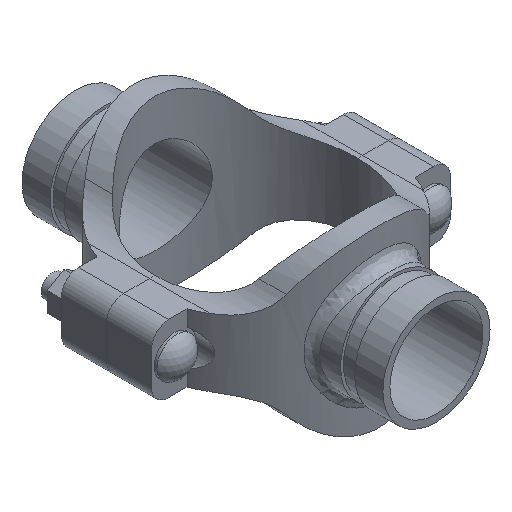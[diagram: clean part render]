
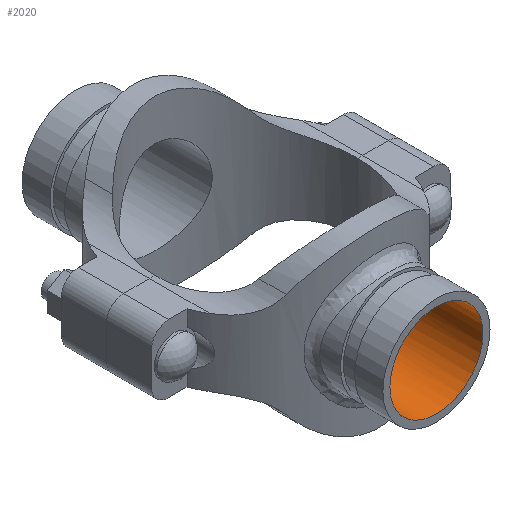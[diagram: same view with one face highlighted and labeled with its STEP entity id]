
A CAD part, isometric view. The second image highlights one B-rep face of the part: STEP entity #2020.
In plain terms, the highlighted cylindrical face has radius 26.194 mm (diameter 52.387 mm), a full revolution.
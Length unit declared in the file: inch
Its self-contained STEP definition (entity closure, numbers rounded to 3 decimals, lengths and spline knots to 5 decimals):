
#52=B_SPLINE_CURVE_WITH_KNOTS('',3,(#4116,#4117,#4118,#4119,#4120,#4121,
#4122,#4123,#4124,#4125,#4126,#4127,#4128,#4129,#4130,#4131,#4132,#4133,
#4134,#4135,#4136,#4137,#4138,#4139,#4140,#4141,#4142,#4143,#4144,#4145,
#4146,#4147,#4148,#4149,#4150,#4151,#4152,#4153,#4154,#4155,#4156,#4157,
#4158,#4159,#4160,#4161,#4162,#4163,#4164,#4165,#4166,#4167,#4168,#4169,
#4170,#4171,#4172,#4173,#4174,#4175,#4176,#4177,#4178,#4179,#4180,#4181),
 .UNSPECIFIED.,.T.,.F.,(4,2,2,2,2,2,2,2,2,2,2,2,2,2,2,2,2,2,2,2,2,2,2,2,
2,2,2,2,2,2,2,2,4),(0.,0.50208,1.00416,1.50624,
2.00833,2.50948,3.01064,3.5118,4.01295,
4.51411,5.01527,5.51643,6.01758,6.51967,
7.02175,7.52383,8.02591,8.52799,9.03007,
9.53215,10.03423,10.53539,11.03655,11.53771,
12.03886,12.54002,13.04118,13.54234,14.04349,
14.54557,15.04766,15.54974,16.05182),
 .UNSPECIFIED.);
#99=CYLINDRICAL_SURFACE('',#2261,1.03125);
#218=FACE_OUTER_BOUND('',#342,.T.);
#342=EDGE_LOOP('',(#1624,#1625,#1626,#1627));
#494=LINE('',#4115,#644);
#644=VECTOR('',#2736,1.03125);
#748=CIRCLE('',#2262,1.03125);
#917=VERTEX_POINT('',#4112);
#918=VERTEX_POINT('',#4114);
#1168=EDGE_CURVE('',#917,#917,#748,.T.);
#1169=EDGE_CURVE('',#917,#918,#494,.T.);
#1170=EDGE_CURVE('',#918,#918,#52,.T.);
#1624=ORIENTED_EDGE('',*,*,#1168,.F.);
#1625=ORIENTED_EDGE('',*,*,#1169,.T.);
#1626=ORIENTED_EDGE('',*,*,#1170,.F.);
#1627=ORIENTED_EDGE('',*,*,#1169,.F.);
#2020=ADVANCED_FACE('',(#218),#99,.F.);
#2261=AXIS2_PLACEMENT_3D('',#4111,#2732,#2733);
#2262=AXIS2_PLACEMENT_3D('',#4113,#2734,#2735);
#2732=DIRECTION('center_axis',(0.,-1.,0.));
#2733=DIRECTION('ref_axis',(-1.,0.,0.));
#2734=DIRECTION('center_axis',(0.,-1.,0.));
#2735=DIRECTION('ref_axis',(-1.,0.,0.));
#2736=DIRECTION('',(0.,-1.,0.));
#4111=CARTESIAN_POINT('Origin',(0.,4.,0.));
#4112=CARTESIAN_POINT('',(1.03125,4.,0.));
#4113=CARTESIAN_POINT('Origin',(0.,4.,0.));
#4114=CARTESIAN_POINT('',(1.03125,1.99976,0.));
#4115=CARTESIAN_POINT('',(1.03125,4.,0.));
#4116=CARTESIAN_POINT('Ctrl Pts',(1.03125,1.99976,0.));
#4117=CARTESIAN_POINT('Ctrl Pts',(1.03125,1.99976,-0.06589));
#4118=CARTESIAN_POINT('Ctrl Pts',(1.02483,2.00311,-0.13364));
#4119=CARTESIAN_POINT('Ctrl Pts',(0.99824,2.01649,-0.26771));
#4120=CARTESIAN_POINT('Ctrl Pts',(0.97807,2.02651,-0.33403));
#4121=CARTESIAN_POINT('Ctrl Pts',(0.92518,2.05119,-0.46069));
#4122=CARTESIAN_POINT('Ctrl Pts',(0.89242,2.06585,-0.52115));
#4123=CARTESIAN_POINT('Ctrl Pts',(0.81708,2.09679,-0.63277));
#4124=CARTESIAN_POINT('Ctrl Pts',(0.77449,2.11305,-0.68392));
#4125=CARTESIAN_POINT('Ctrl Pts',(0.68401,2.14404,-0.7744));
#4126=CARTESIAN_POINT('Ctrl Pts',(0.63289,2.15993,-0.81698));
#4127=CARTESIAN_POINT('Ctrl Pts',(0.52126,2.18955,-0.89236));
#4128=CARTESIAN_POINT('Ctrl Pts',(0.46073,2.20326,-0.92516));
#4129=CARTESIAN_POINT('Ctrl Pts',(0.33395,2.22601,-0.9781));
#4130=CARTESIAN_POINT('Ctrl Pts',(0.26757,2.23505,-0.99828));
#4131=CARTESIAN_POINT('Ctrl Pts',(0.13348,2.24705,-1.02486));
#4132=CARTESIAN_POINT('Ctrl Pts',(0.06577,2.25,-1.03125));
#4133=CARTESIAN_POINT('Ctrl Pts',(-0.06577,2.25,-1.03125));
#4134=CARTESIAN_POINT('Ctrl Pts',(-0.13348,2.24705,-1.02486));
#4135=CARTESIAN_POINT('Ctrl Pts',(-0.26757,2.23505,-0.99828));
#4136=CARTESIAN_POINT('Ctrl Pts',(-0.33395,2.22601,-0.9781));
#4137=CARTESIAN_POINT('Ctrl Pts',(-0.46073,2.20326,-0.92516));
#4138=CARTESIAN_POINT('Ctrl Pts',(-0.52126,2.18955,-0.89236));
#4139=CARTESIAN_POINT('Ctrl Pts',(-0.63289,2.15993,-0.81698));
#4140=CARTESIAN_POINT('Ctrl Pts',(-0.68401,2.14404,-0.7744));
#4141=CARTESIAN_POINT('Ctrl Pts',(-0.77449,2.11305,-0.68392));
#4142=CARTESIAN_POINT('Ctrl Pts',(-0.81708,2.09679,-0.63277));
#4143=CARTESIAN_POINT('Ctrl Pts',(-0.89242,2.06585,-0.52115));
#4144=CARTESIAN_POINT('Ctrl Pts',(-0.92518,2.05119,-0.46069));
#4145=CARTESIAN_POINT('Ctrl Pts',(-0.97807,2.02651,-0.33403));
#4146=CARTESIAN_POINT('Ctrl Pts',(-0.99824,2.01649,-0.26771));
#4147=CARTESIAN_POINT('Ctrl Pts',(-1.02483,2.00311,-0.13364));
#4148=CARTESIAN_POINT('Ctrl Pts',(-1.03125,1.99976,-0.06589));
#4149=CARTESIAN_POINT('Ctrl Pts',(-1.03125,1.99976,0.06589));
#4150=CARTESIAN_POINT('Ctrl Pts',(-1.02483,2.00311,0.13364));
#4151=CARTESIAN_POINT('Ctrl Pts',(-0.99824,2.01649,0.26771));
#4152=CARTESIAN_POINT('Ctrl Pts',(-0.97807,2.02651,0.33403));
#4153=CARTESIAN_POINT('Ctrl Pts',(-0.92518,2.05119,0.46069));
#4154=CARTESIAN_POINT('Ctrl Pts',(-0.89242,2.06585,0.52115));
#4155=CARTESIAN_POINT('Ctrl Pts',(-0.81708,2.09679,0.63277));
#4156=CARTESIAN_POINT('Ctrl Pts',(-0.77449,2.11305,0.68392));
#4157=CARTESIAN_POINT('Ctrl Pts',(-0.68401,2.14404,0.7744));
#4158=CARTESIAN_POINT('Ctrl Pts',(-0.63289,2.15993,0.81698));
#4159=CARTESIAN_POINT('Ctrl Pts',(-0.52126,2.18955,0.89236));
#4160=CARTESIAN_POINT('Ctrl Pts',(-0.46073,2.20326,0.92516));
#4161=CARTESIAN_POINT('Ctrl Pts',(-0.33395,2.22601,0.9781));
#4162=CARTESIAN_POINT('Ctrl Pts',(-0.26757,2.23505,0.99828));
#4163=CARTESIAN_POINT('Ctrl Pts',(-0.13348,2.24705,1.02486));
#4164=CARTESIAN_POINT('Ctrl Pts',(-0.06577,2.25,1.03125));
#4165=CARTESIAN_POINT('Ctrl Pts',(0.06577,2.25,1.03125));
#4166=CARTESIAN_POINT('Ctrl Pts',(0.13348,2.24705,1.02486));
#4167=CARTESIAN_POINT('Ctrl Pts',(0.26757,2.23505,0.99828));
#4168=CARTESIAN_POINT('Ctrl Pts',(0.33395,2.22601,0.9781));
#4169=CARTESIAN_POINT('Ctrl Pts',(0.46073,2.20326,0.92516));
#4170=CARTESIAN_POINT('Ctrl Pts',(0.52126,2.18955,0.89236));
#4171=CARTESIAN_POINT('Ctrl Pts',(0.63289,2.15993,0.81698));
#4172=CARTESIAN_POINT('Ctrl Pts',(0.68401,2.14404,0.7744));
#4173=CARTESIAN_POINT('Ctrl Pts',(0.77449,2.11305,0.68392));
#4174=CARTESIAN_POINT('Ctrl Pts',(0.81708,2.09679,0.63277));
#4175=CARTESIAN_POINT('Ctrl Pts',(0.89242,2.06585,0.52115));
#4176=CARTESIAN_POINT('Ctrl Pts',(0.92518,2.05119,0.46069));
#4177=CARTESIAN_POINT('Ctrl Pts',(0.97807,2.02651,0.33403));
#4178=CARTESIAN_POINT('Ctrl Pts',(0.99824,2.01649,0.26771));
#4179=CARTESIAN_POINT('Ctrl Pts',(1.02483,2.00311,0.13364));
#4180=CARTESIAN_POINT('Ctrl Pts',(1.03125,1.99976,0.06589));
#4181=CARTESIAN_POINT('Ctrl Pts',(1.03125,1.99976,0.));
